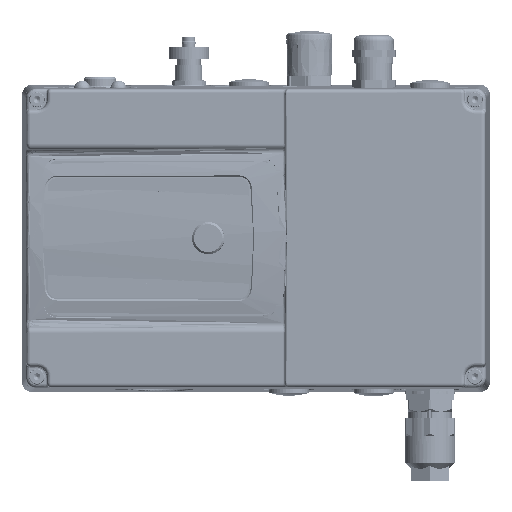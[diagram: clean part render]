
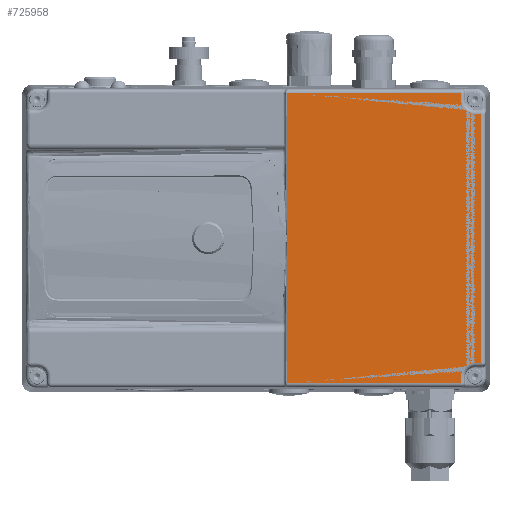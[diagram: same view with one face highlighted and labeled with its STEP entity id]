
A CAD part, top view. The second image highlights one B-rep face of the part: STEP entity #725958.
In plain terms, the highlighted planar face has unit normal (0, 0, 1).
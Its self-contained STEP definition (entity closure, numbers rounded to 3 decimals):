
#725886=AXIS2_PLACEMENT_3D('Plane Axis2P3D',#725883,#725884,#725885) ;
#725897=AXIS2_PLACEMENT_3D('Circle Axis2P3D',#725895,#725896,$) ;
#725934=AXIS2_PLACEMENT_3D('Circle Axis2P3D',#725932,#725933,$) ;
#722621=CARTESIAN_POINT('Line Origine',(96.,19.78,70.45)) ;
#722625=CARTESIAN_POINT('Vertex',(111.466,19.78,70.45)) ;
#722627=CARTESIAN_POINT('Vertex',(198.,19.78,70.45)) ;
#724123=CARTESIAN_POINT('Vertex',(111.466,164.22,70.45)) ;
#724126=CARTESIAN_POINT('Line Origine',(96.,164.22,70.45)) ;
#724130=CARTESIAN_POINT('Vertex',(198.,164.22,70.45)) ;
#724568=CARTESIAN_POINT('Vertex',(208.22,154.,70.45)) ;
#724571=CARTESIAN_POINT('Line Origine',(208.22,90.344,70.45)) ;
#724575=CARTESIAN_POINT('Vertex',(208.22,30.,70.45)) ;
#725797=CARTESIAN_POINT('Vertex',(111.466,19.802,70.45)) ;
#725808=CARTESIAN_POINT('Control Point',(111.466,19.801,70.45)) ;
#725809=CARTESIAN_POINT('Control Point',(111.466,19.797,70.45)) ;
#725810=CARTESIAN_POINT('Control Point',(111.466,19.793,70.45)) ;
#725811=CARTESIAN_POINT('Control Point',(111.466,19.788,70.45)) ;
#725812=CARTESIAN_POINT('Control Point',(111.466,19.784,70.45)) ;
#725813=CARTESIAN_POINT('Control Point',(111.466,19.78,70.45)) ;
#725883=CARTESIAN_POINT('Axis2P3D Location',(212.5,15.5,70.45)) ;
#725888=CARTESIAN_POINT('Line Origine',(206.61,154.,70.45)) ;
#725892=CARTESIAN_POINT('Vertex',(205.,154.,70.45)) ;
#725895=CARTESIAN_POINT('Axis2P3D Location',(205.,161.,70.45)) ;
#725899=CARTESIAN_POINT('Vertex',(198.,161.,70.45)) ;
#725902=CARTESIAN_POINT('Line Origine',(198.,162.61,70.45)) ;
#725908=CARTESIAN_POINT('Control Point',(111.466,164.22,70.45)) ;
#725909=CARTESIAN_POINT('Control Point',(111.466,164.216,70.45)) ;
#725910=CARTESIAN_POINT('Control Point',(111.466,164.212,70.45)) ;
#725911=CARTESIAN_POINT('Control Point',(111.466,164.208,70.45)) ;
#725912=CARTESIAN_POINT('Control Point',(111.466,164.204,70.45)) ;
#725913=CARTESIAN_POINT('Control Point',(111.466,164.199,70.45)) ;
#725914=CARTESIAN_POINT('Control Point',(111.466,164.199,70.45)) ;
#725915=CARTESIAN_POINT('Control Point',(111.466,164.199,70.45)) ;
#725916=CARTESIAN_POINT('Control Point',(111.466,164.198,70.45)) ;
#725917=CARTESIAN_POINT('Vertex',(111.466,164.198,70.45)) ;
#725920=CARTESIAN_POINT('Line Origine',(111.466,92.,70.45)) ;
#725925=CARTESIAN_POINT('Line Origine',(198.,21.39,70.45)) ;
#725929=CARTESIAN_POINT('Vertex',(198.,23.,70.45)) ;
#725932=CARTESIAN_POINT('Axis2P3D Location',(205.,23.,70.45)) ;
#725936=CARTESIAN_POINT('Vertex',(205.,30.,70.45)) ;
#725939=CARTESIAN_POINT('Line Origine',(206.61,30.,70.45)) ;
#722622=DIRECTION('Vector Direction',(-1.,0.,0.)) ;
#724127=DIRECTION('Vector Direction',(1.,0.,0.)) ;
#724572=DIRECTION('Vector Direction',(0.,1.,0.)) ;
#725884=DIRECTION('Axis2P3D Direction',(0.,0.,1.)) ;
#725885=DIRECTION('Axis2P3D XDirection',(0.,1.,0.)) ;
#725889=DIRECTION('Vector Direction',(1.,0.,0.)) ;
#725896=DIRECTION('Axis2P3D Direction',(0.,0.,1.)) ;
#725903=DIRECTION('Vector Direction',(0.,1.,0.)) ;
#725921=DIRECTION('Vector Direction',(0.,1.,0.)) ;
#725926=DIRECTION('Vector Direction',(0.,1.,0.)) ;
#725933=DIRECTION('Axis2P3D Direction',(0.,0.,1.)) ;
#725940=DIRECTION('Vector Direction',(1.,0.,0.)) ;
#722623=VECTOR('Line Direction',#722622,1.) ;
#724128=VECTOR('Line Direction',#724127,1.) ;
#724573=VECTOR('Line Direction',#724572,1.) ;
#725890=VECTOR('Line Direction',#725889,1.) ;
#725904=VECTOR('Line Direction',#725903,1.) ;
#725922=VECTOR('Line Direction',#725921,1.) ;
#725927=VECTOR('Line Direction',#725926,1.) ;
#725941=VECTOR('Line Direction',#725940,1.) ;
#725945=ORIENTED_EDGE('',*,*,#724577,.T.) ;
#725946=ORIENTED_EDGE('',*,*,#725894,.F.) ;
#725947=ORIENTED_EDGE('',*,*,#725901,.F.) ;
#725948=ORIENTED_EDGE('',*,*,#725906,.F.) ;
#725949=ORIENTED_EDGE('',*,*,#724132,.T.) ;
#725950=ORIENTED_EDGE('',*,*,#725919,.F.) ;
#725951=ORIENTED_EDGE('',*,*,#725924,.T.) ;
#725952=ORIENTED_EDGE('',*,*,#725814,.T.) ;
#725953=ORIENTED_EDGE('',*,*,#722629,.T.) ;
#725954=ORIENTED_EDGE('',*,*,#725931,.F.) ;
#725955=ORIENTED_EDGE('',*,*,#725938,.F.) ;
#725956=ORIENTED_EDGE('',*,*,#725943,.F.) ;
#725958=ADVANCED_FACE('COVER_STANDARD_(DK01)',(#725957),#725887,.T.) ;
#725807=B_SPLINE_CURVE_WITH_KNOTS('',5,(#725808,#725809,#725810,#725811,#725812,#725813),.UNSPECIFIED.,.F.,.U.,(6,6),(4.152,4.187),.UNSPECIFIED.) ;
#725907=B_SPLINE_CURVE_WITH_KNOTS('',5,(#725908,#725909,#725910,#725911,#725912,#725913,#725914,#725915,#725916),.UNSPECIFIED.,.F.,.U.,(6,3,6),(6.649,6.683,6.685),.UNSPECIFIED.) ;
#725898=CIRCLE('generated circle',#725897,7.) ;
#725935=CIRCLE('generated circle',#725934,7.) ;
#722629=EDGE_CURVE('',#722626,#722628,#722624,.F.) ;
#724132=EDGE_CURVE('',#724131,#724124,#724129,.F.) ;
#724577=EDGE_CURVE('',#724576,#724569,#724574,.T.) ;
#725814=EDGE_CURVE('',#725798,#722626,#725807,.T.) ;
#725894=EDGE_CURVE('',#725893,#724569,#725891,.T.) ;
#725901=EDGE_CURVE('',#725900,#725893,#725898,.T.) ;
#725906=EDGE_CURVE('',#724131,#725900,#725905,.F.) ;
#725919=EDGE_CURVE('',#725918,#724124,#725907,.F.) ;
#725924=EDGE_CURVE('',#725918,#725798,#725923,.F.) ;
#725931=EDGE_CURVE('',#725930,#722628,#725928,.F.) ;
#725938=EDGE_CURVE('',#725937,#725930,#725935,.T.) ;
#725943=EDGE_CURVE('',#724576,#725937,#725942,.F.) ;
#725944=EDGE_LOOP('',(#725945,#725946,#725947,#725948,#725949,#725950,#725951,#725952,#725953,#725954,#725955,#725956)) ;
#725957=FACE_OUTER_BOUND('',#725944,.T.) ;
#722624=LINE('Line',#722621,#722623) ;
#724129=LINE('Line',#724126,#724128) ;
#724574=LINE('Line',#724571,#724573) ;
#725891=LINE('Line',#725888,#725890) ;
#725905=LINE('Line',#725902,#725904) ;
#725923=LINE('Line',#725920,#725922) ;
#725928=LINE('Line',#725925,#725927) ;
#725942=LINE('Line',#725939,#725941) ;
#725887=PLANE('',#725886) ;
#722626=VERTEX_POINT('',#722625) ;
#722628=VERTEX_POINT('',#722627) ;
#724124=VERTEX_POINT('',#724123) ;
#724131=VERTEX_POINT('',#724130) ;
#724569=VERTEX_POINT('',#724568) ;
#724576=VERTEX_POINT('',#724575) ;
#725798=VERTEX_POINT('',#725797) ;
#725893=VERTEX_POINT('',#725892) ;
#725900=VERTEX_POINT('',#725899) ;
#725918=VERTEX_POINT('',#725917) ;
#725930=VERTEX_POINT('',#725929) ;
#725937=VERTEX_POINT('',#725936) ;
